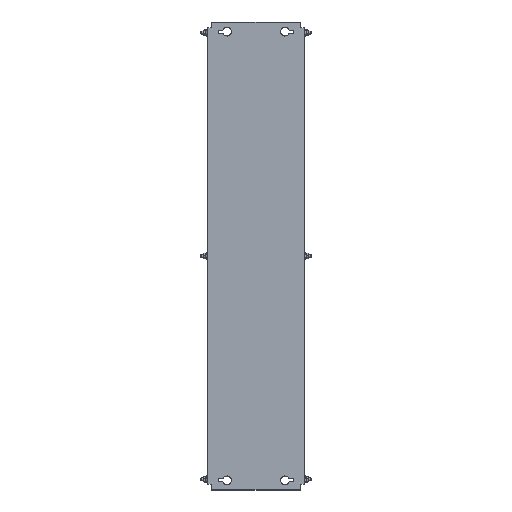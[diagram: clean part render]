
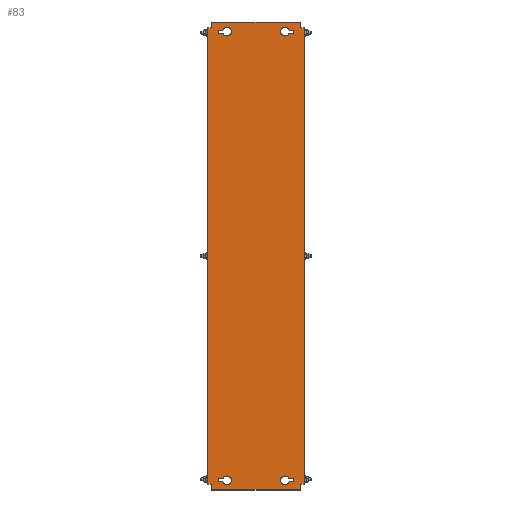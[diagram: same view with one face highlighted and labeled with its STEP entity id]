
A CAD part, top view. The second image highlights one B-rep face of the part: STEP entity #83.
In plain terms, the highlighted planar face has unit normal (0, 0, 1).
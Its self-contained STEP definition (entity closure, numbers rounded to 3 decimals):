
#83 = ADVANCED_FACE('',(#84,#119,#154,#316,#351),#386,.T.);
#84 = FACE_BOUND('',#85,.T.);
#85 = EDGE_LOOP('',(#86,#96,#104,#112));
#86 = ORIENTED_EDGE('',*,*,#87,.T.);
#87 = EDGE_CURVE('',#88,#90,#92,.T.);
#88 = VERTEX_POINT('',#89);
#89 = CARTESIAN_POINT('',(68.393,467.75,2.));
#90 = VERTEX_POINT('',#91);
#91 = CARTESIAN_POINT('',(78.,467.75,2.));
#92 = LINE('',#93,#94);
#93 = CARTESIAN_POINT('',(77.,467.75,2.));
#94 = VECTOR('',#95,1.);
#95 = DIRECTION('',(1.,0.,0.));
#96 = ORIENTED_EDGE('',*,*,#97,.T.);
#97 = EDGE_CURVE('',#90,#98,#100,.T.);
#98 = VERTEX_POINT('',#99);
#99 = CARTESIAN_POINT('',(78.,461.25,2.));
#100 = LINE('',#101,#102);
#101 = CARTESIAN_POINT('',(78.,467.75,2.));
#102 = VECTOR('',#103,1.);
#103 = DIRECTION('',(0.,-1.,0.));
#104 = ORIENTED_EDGE('',*,*,#105,.T.);
#105 = EDGE_CURVE('',#98,#106,#108,.T.);
#106 = VERTEX_POINT('',#107);
#107 = CARTESIAN_POINT('',(68.393,461.25,2.));
#108 = LINE('',#109,#110);
#109 = CARTESIAN_POINT('',(77.,461.25,2.));
#110 = VECTOR('',#111,1.);
#111 = DIRECTION('',(-1.,0.,0.));
#112 = ORIENTED_EDGE('',*,*,#113,.T.);
#113 = EDGE_CURVE('',#106,#88,#114,.T.);
#114 = CIRCLE('',#115,9.);
#115 = AXIS2_PLACEMENT_3D('',#116,#117,#118);
#116 = CARTESIAN_POINT('',(60.,464.5,2.));
#117 = DIRECTION('',(0.,0.,-1.));
#118 = DIRECTION('',(1.,0.,0.));
#119 = FACE_BOUND('',#120,.T.);
#120 = EDGE_LOOP('',(#121,#131,#139,#147));
#121 = ORIENTED_EDGE('',*,*,#122,.T.);
#122 = EDGE_CURVE('',#123,#125,#127,.T.);
#123 = VERTEX_POINT('',#124);
#124 = CARTESIAN_POINT('',(-68.393,-467.75,2.));
#125 = VERTEX_POINT('',#126);
#126 = CARTESIAN_POINT('',(-78.,-467.75,2.));
#127 = LINE('',#128,#129);
#128 = CARTESIAN_POINT('',(-77.,-467.75,2.));
#129 = VECTOR('',#130,1.);
#130 = DIRECTION('',(-1.,0.,0.));
#131 = ORIENTED_EDGE('',*,*,#132,.T.);
#132 = EDGE_CURVE('',#125,#133,#135,.T.);
#133 = VERTEX_POINT('',#134);
#134 = CARTESIAN_POINT('',(-78.,-461.25,2.));
#135 = LINE('',#136,#137);
#136 = CARTESIAN_POINT('',(-78.,-467.75,2.));
#137 = VECTOR('',#138,1.);
#138 = DIRECTION('',(0.,1.,0.));
#139 = ORIENTED_EDGE('',*,*,#140,.T.);
#140 = EDGE_CURVE('',#133,#141,#143,.T.);
#141 = VERTEX_POINT('',#142);
#142 = CARTESIAN_POINT('',(-68.393,-461.25,2.));
#143 = LINE('',#144,#145);
#144 = CARTESIAN_POINT('',(-77.,-461.25,2.));
#145 = VECTOR('',#146,1.);
#146 = DIRECTION('',(1.,-0.,-0.));
#147 = ORIENTED_EDGE('',*,*,#148,.T.);
#148 = EDGE_CURVE('',#141,#123,#149,.T.);
#149 = CIRCLE('',#150,9.);
#150 = AXIS2_PLACEMENT_3D('',#151,#152,#153);
#151 = CARTESIAN_POINT('',(-60.,-464.5,2.));
#152 = DIRECTION('',(0.,0.,-1.));
#153 = DIRECTION('',(-1.,0.,0.));
#154 = FACE_BOUND('',#155,.T.);
#155 = EDGE_LOOP('',(#156,#166,#174,#182,#190,#198,#206,#214,#222,#230,
    #238,#246,#254,#262,#270,#278,#286,#294,#302,#310));
#156 = ORIENTED_EDGE('',*,*,#157,.F.);
#157 = EDGE_CURVE('',#158,#160,#162,.T.);
#158 = VERTEX_POINT('',#159);
#159 = CARTESIAN_POINT('',(-97.4,472.5,2.));
#160 = VERTEX_POINT('',#161);
#161 = CARTESIAN_POINT('',(-92.,472.5,2.));
#162 = LINE('',#163,#164);
#163 = CARTESIAN_POINT('',(-98.,472.5,2.));
#164 = VECTOR('',#165,1.);
#165 = DIRECTION('',(1.,0.,-0.));
#166 = ORIENTED_EDGE('',*,*,#167,.T.);
#167 = EDGE_CURVE('',#158,#168,#170,.T.);
#168 = VERTEX_POINT('',#169);
#169 = CARTESIAN_POINT('',(-100.,472.5,2.));
#170 = LINE('',#171,#172);
#171 = CARTESIAN_POINT('',(-97.4,472.5,2.));
#172 = VECTOR('',#173,1.);
#173 = DIRECTION('',(-1.,0.,0.));
#174 = ORIENTED_EDGE('',*,*,#175,.F.);
#175 = EDGE_CURVE('',#176,#168,#178,.T.);
#176 = VERTEX_POINT('',#177);
#177 = CARTESIAN_POINT('',(-100.,-472.5,2.));
#178 = LINE('',#179,#180);
#179 = CARTESIAN_POINT('',(-100.,-482.5,2.));
#180 = VECTOR('',#181,1.);
#181 = DIRECTION('',(0.,1.,-0.));
#182 = ORIENTED_EDGE('',*,*,#183,.F.);
#183 = EDGE_CURVE('',#184,#176,#186,.T.);
#184 = VERTEX_POINT('',#185);
#185 = CARTESIAN_POINT('',(-97.4,-472.5,2.));
#186 = LINE('',#187,#188);
#187 = CARTESIAN_POINT('',(-92.,-472.5,2.));
#188 = VECTOR('',#189,1.);
#189 = DIRECTION('',(-1.,-0.,-0.));
#190 = ORIENTED_EDGE('',*,*,#191,.T.);
#191 = EDGE_CURVE('',#184,#192,#194,.T.);
#192 = VERTEX_POINT('',#193);
#193 = CARTESIAN_POINT('',(-92.,-472.5,2.));
#194 = LINE('',#195,#196);
#195 = CARTESIAN_POINT('',(-98.,-472.5,2.));
#196 = VECTOR('',#197,1.);
#197 = DIRECTION('',(1.,0.,-0.));
#198 = ORIENTED_EDGE('',*,*,#199,.T.);
#199 = EDGE_CURVE('',#192,#200,#202,.T.);
#200 = VERTEX_POINT('',#201);
#201 = CARTESIAN_POINT('',(-92.,-481.9,2.));
#202 = LINE('',#203,#204);
#203 = CARTESIAN_POINT('',(-92.,482.5,2.));
#204 = VECTOR('',#205,1.);
#205 = DIRECTION('',(0.,-1.,0.));
#206 = ORIENTED_EDGE('',*,*,#207,.T.);
#207 = EDGE_CURVE('',#200,#208,#210,.T.);
#208 = VERTEX_POINT('',#209);
#209 = CARTESIAN_POINT('',(-92.,-482.5,2.));
#210 = LINE('',#211,#212);
#211 = CARTESIAN_POINT('',(-92.,-481.9,2.));
#212 = VECTOR('',#213,1.);
#213 = DIRECTION('',(-0.,-1.,-0.));
#214 = ORIENTED_EDGE('',*,*,#215,.T.);
#215 = EDGE_CURVE('',#208,#216,#218,.T.);
#216 = VERTEX_POINT('',#217);
#217 = CARTESIAN_POINT('',(92.,-482.5,2.));
#218 = LINE('',#219,#220);
#219 = CARTESIAN_POINT('',(92.,-482.5,2.));
#220 = VECTOR('',#221,1.);
#221 = DIRECTION('',(1.,0.,0.));
#222 = ORIENTED_EDGE('',*,*,#223,.F.);
#223 = EDGE_CURVE('',#224,#216,#226,.T.);
#224 = VERTEX_POINT('',#225);
#225 = CARTESIAN_POINT('',(92.,-481.9,2.));
#226 = LINE('',#227,#228);
#227 = CARTESIAN_POINT('',(92.,-482.5,2.));
#228 = VECTOR('',#229,1.);
#229 = DIRECTION('',(0.,-1.,0.));
#230 = ORIENTED_EDGE('',*,*,#231,.T.);
#231 = EDGE_CURVE('',#224,#232,#234,.T.);
#232 = VERTEX_POINT('',#233);
#233 = CARTESIAN_POINT('',(92.,-472.5,2.));
#234 = LINE('',#235,#236);
#235 = CARTESIAN_POINT('',(92.,482.5,2.));
#236 = VECTOR('',#237,1.);
#237 = DIRECTION('',(0.,1.,-0.));
#238 = ORIENTED_EDGE('',*,*,#239,.F.);
#239 = EDGE_CURVE('',#240,#232,#242,.T.);
#240 = VERTEX_POINT('',#241);
#241 = CARTESIAN_POINT('',(97.4,-472.5,2.));
#242 = LINE('',#243,#244);
#243 = CARTESIAN_POINT('',(98.,-472.5,2.));
#244 = VECTOR('',#245,1.);
#245 = DIRECTION('',(-1.,0.,-0.));
#246 = ORIENTED_EDGE('',*,*,#247,.T.);
#247 = EDGE_CURVE('',#240,#248,#250,.T.);
#248 = VERTEX_POINT('',#249);
#249 = CARTESIAN_POINT('',(100.,-472.5,2.));
#250 = LINE('',#251,#252);
#251 = CARTESIAN_POINT('',(97.4,-472.5,2.));
#252 = VECTOR('',#253,1.);
#253 = DIRECTION('',(1.,0.,0.));
#254 = ORIENTED_EDGE('',*,*,#255,.F.);
#255 = EDGE_CURVE('',#256,#248,#258,.T.);
#256 = VERTEX_POINT('',#257);
#257 = CARTESIAN_POINT('',(100.,472.5,2.));
#258 = LINE('',#259,#260);
#259 = CARTESIAN_POINT('',(100.,-482.5,2.));
#260 = VECTOR('',#261,1.);
#261 = DIRECTION('',(0.,-1.,-0.));
#262 = ORIENTED_EDGE('',*,*,#263,.F.);
#263 = EDGE_CURVE('',#264,#256,#266,.T.);
#264 = VERTEX_POINT('',#265);
#265 = CARTESIAN_POINT('',(97.4,472.5,2.));
#266 = LINE('',#267,#268);
#267 = CARTESIAN_POINT('',(-92.,472.5,2.));
#268 = VECTOR('',#269,1.);
#269 = DIRECTION('',(1.,-0.,-0.));
#270 = ORIENTED_EDGE('',*,*,#271,.T.);
#271 = EDGE_CURVE('',#264,#272,#274,.T.);
#272 = VERTEX_POINT('',#273);
#273 = CARTESIAN_POINT('',(92.,472.5,2.));
#274 = LINE('',#275,#276);
#275 = CARTESIAN_POINT('',(98.,472.5,2.));
#276 = VECTOR('',#277,1.);
#277 = DIRECTION('',(-1.,0.,-0.));
#278 = ORIENTED_EDGE('',*,*,#279,.T.);
#279 = EDGE_CURVE('',#272,#280,#282,.T.);
#280 = VERTEX_POINT('',#281);
#281 = CARTESIAN_POINT('',(92.,481.9,2.));
#282 = LINE('',#283,#284);
#283 = CARTESIAN_POINT('',(92.,482.5,2.));
#284 = VECTOR('',#285,1.);
#285 = DIRECTION('',(0.,1.,-0.));
#286 = ORIENTED_EDGE('',*,*,#287,.T.);
#287 = EDGE_CURVE('',#280,#288,#290,.T.);
#288 = VERTEX_POINT('',#289);
#289 = CARTESIAN_POINT('',(92.,482.5,2.));
#290 = LINE('',#291,#292);
#291 = CARTESIAN_POINT('',(92.,481.9,2.));
#292 = VECTOR('',#293,1.);
#293 = DIRECTION('',(-0.,1.,-0.));
#294 = ORIENTED_EDGE('',*,*,#295,.T.);
#295 = EDGE_CURVE('',#288,#296,#298,.T.);
#296 = VERTEX_POINT('',#297);
#297 = CARTESIAN_POINT('',(-92.,482.5,2.));
#298 = LINE('',#299,#300);
#299 = CARTESIAN_POINT('',(-92.,482.5,2.));
#300 = VECTOR('',#301,1.);
#301 = DIRECTION('',(-1.,0.,0.));
#302 = ORIENTED_EDGE('',*,*,#303,.F.);
#303 = EDGE_CURVE('',#304,#296,#306,.T.);
#304 = VERTEX_POINT('',#305);
#305 = CARTESIAN_POINT('',(-92.,481.9,2.));
#306 = LINE('',#307,#308);
#307 = CARTESIAN_POINT('',(-92.,-482.5,2.));
#308 = VECTOR('',#309,1.);
#309 = DIRECTION('',(0.,1.,-0.));
#310 = ORIENTED_EDGE('',*,*,#311,.T.);
#311 = EDGE_CURVE('',#304,#160,#312,.T.);
#312 = LINE('',#313,#314);
#313 = CARTESIAN_POINT('',(-92.,482.5,2.));
#314 = VECTOR('',#315,1.);
#315 = DIRECTION('',(0.,-1.,0.));
#316 = FACE_BOUND('',#317,.T.);
#317 = EDGE_LOOP('',(#318,#328,#336,#344));
#318 = ORIENTED_EDGE('',*,*,#319,.F.);
#319 = EDGE_CURVE('',#320,#322,#324,.T.);
#320 = VERTEX_POINT('',#321);
#321 = CARTESIAN_POINT('',(78.,-461.25,2.));
#322 = VERTEX_POINT('',#323);
#323 = CARTESIAN_POINT('',(68.393,-461.25,2.));
#324 = LINE('',#325,#326);
#325 = CARTESIAN_POINT('',(68.393,-461.25,2.));
#326 = VECTOR('',#327,1.);
#327 = DIRECTION('',(-1.,0.,0.));
#328 = ORIENTED_EDGE('',*,*,#329,.F.);
#329 = EDGE_CURVE('',#330,#320,#332,.T.);
#330 = VERTEX_POINT('',#331);
#331 = CARTESIAN_POINT('',(78.,-467.75,2.));
#332 = LINE('',#333,#334);
#333 = CARTESIAN_POINT('',(78.,-461.25,2.));
#334 = VECTOR('',#335,1.);
#335 = DIRECTION('',(0.,1.,0.));
#336 = ORIENTED_EDGE('',*,*,#337,.F.);
#337 = EDGE_CURVE('',#338,#330,#340,.T.);
#338 = VERTEX_POINT('',#339);
#339 = CARTESIAN_POINT('',(68.393,-467.75,2.));
#340 = LINE('',#341,#342);
#341 = CARTESIAN_POINT('',(77.,-467.75,2.));
#342 = VECTOR('',#343,1.);
#343 = DIRECTION('',(1.,0.,0.));
#344 = ORIENTED_EDGE('',*,*,#345,.F.);
#345 = EDGE_CURVE('',#322,#338,#346,.T.);
#346 = CIRCLE('',#347,9.);
#347 = AXIS2_PLACEMENT_3D('',#348,#349,#350);
#348 = CARTESIAN_POINT('',(60.,-464.5,2.));
#349 = DIRECTION('',(0.,-0.,1.));
#350 = DIRECTION('',(1.,0.,0.));
#351 = FACE_BOUND('',#352,.T.);
#352 = EDGE_LOOP('',(#353,#363,#371,#379));
#353 = ORIENTED_EDGE('',*,*,#354,.F.);
#354 = EDGE_CURVE('',#355,#357,#359,.T.);
#355 = VERTEX_POINT('',#356);
#356 = CARTESIAN_POINT('',(-78.,461.25,2.));
#357 = VERTEX_POINT('',#358);
#358 = CARTESIAN_POINT('',(-68.393,461.25,2.));
#359 = LINE('',#360,#361);
#360 = CARTESIAN_POINT('',(-68.393,461.25,2.));
#361 = VECTOR('',#362,1.);
#362 = DIRECTION('',(1.,0.,0.));
#363 = ORIENTED_EDGE('',*,*,#364,.F.);
#364 = EDGE_CURVE('',#365,#355,#367,.T.);
#365 = VERTEX_POINT('',#366);
#366 = CARTESIAN_POINT('',(-78.,467.75,2.));
#367 = LINE('',#368,#369);
#368 = CARTESIAN_POINT('',(-78.,461.25,2.));
#369 = VECTOR('',#370,1.);
#370 = DIRECTION('',(0.,-1.,0.));
#371 = ORIENTED_EDGE('',*,*,#372,.F.);
#372 = EDGE_CURVE('',#373,#365,#375,.T.);
#373 = VERTEX_POINT('',#374);
#374 = CARTESIAN_POINT('',(-68.393,467.75,2.));
#375 = LINE('',#376,#377);
#376 = CARTESIAN_POINT('',(-77.,467.75,2.));
#377 = VECTOR('',#378,1.);
#378 = DIRECTION('',(-1.,0.,0.));
#379 = ORIENTED_EDGE('',*,*,#380,.F.);
#380 = EDGE_CURVE('',#357,#373,#381,.T.);
#381 = CIRCLE('',#382,9.);
#382 = AXIS2_PLACEMENT_3D('',#383,#384,#385);
#383 = CARTESIAN_POINT('',(-60.,464.5,2.));
#384 = DIRECTION('',(0.,-0.,1.));
#385 = DIRECTION('',(-1.,0.,0.));
#386 = PLANE('',#387);
#387 = AXIS2_PLACEMENT_3D('',#388,#389,#390);
#388 = CARTESIAN_POINT('',(-92.,-482.5,2.));
#389 = DIRECTION('',(-0.,0.,1.));
#390 = DIRECTION('',(1.,0.,0.));
